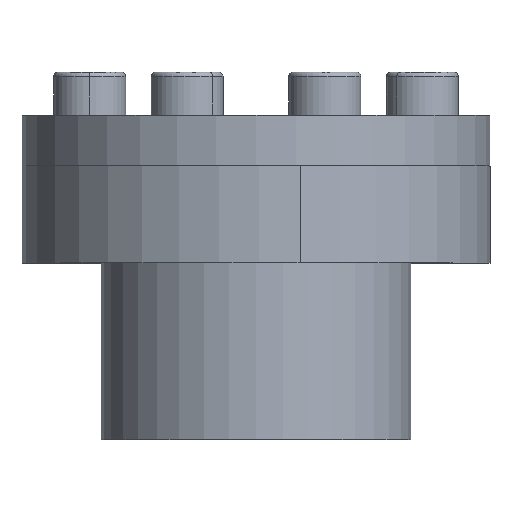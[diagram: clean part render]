
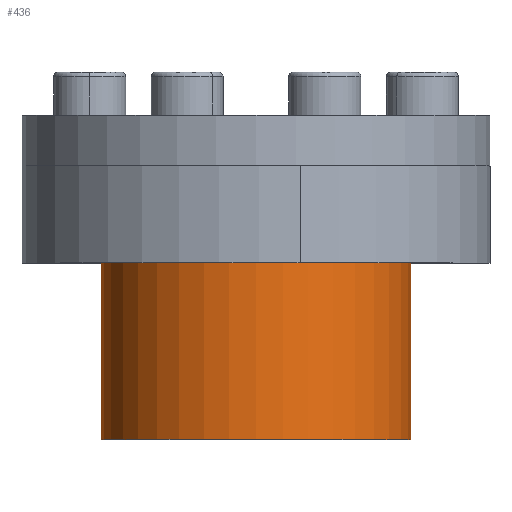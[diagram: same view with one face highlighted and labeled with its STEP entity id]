
A CAD part, top view. The second image highlights one B-rep face of the part: STEP entity #436.
In plain terms, the highlighted cylindrical face has radius 21.5 mm (diameter 43 mm), a partial arc.
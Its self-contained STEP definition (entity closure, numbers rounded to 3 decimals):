
#208 = ORIENTED_EDGE ( 'NONE', *, *, #913, .F. ) ;
#225 = ORIENTED_EDGE ( 'NONE', *, *, #2319, .F. ) ;
#291 = CARTESIAN_POINT ( 'NONE',  ( -0.8, 0., -21.485 ) ) ;
#409 = FACE_OUTER_BOUND ( 'NONE', #782, .T. ) ;
#422 = CARTESIAN_POINT ( 'NONE',  ( 0.8, 25., -21.485 ) ) ;
#436 = ADVANCED_FACE ( 'NONE', ( #409 ), #1183, .T. ) ;
#702 = DIRECTION ( 'NONE',  ( 0., -1., 0. ) ) ;
#751 = EDGE_CURVE ( 'NONE', #1554, #2414, #1536, .T. ) ;
#762 = ORIENTED_EDGE ( 'NONE', *, *, #2507, .F. ) ;
#766 = DIRECTION ( 'NONE',  ( 0., 0., -1. ) ) ;
#782 = EDGE_LOOP ( 'NONE', ( #208, #2804, #762, #225 ) ) ;
#788 = AXIS2_PLACEMENT_3D ( 'NONE', #3169, #916, #3140 ) ;
#913 = EDGE_CURVE ( 'NONE', #1554, #1516, #1466, .T. ) ;
#916 = DIRECTION ( 'NONE',  ( 0., -1., 0. ) ) ;
#1040 = VECTOR ( 'NONE', #1981, 1000. ) ;
#1183 = CYLINDRICAL_SURFACE ( 'NONE', #2411, 21.5 ) ;
#1360 = DIRECTION ( 'NONE',  ( 0., 0., -1. ) ) ;
#1380 = CARTESIAN_POINT ( 'NONE',  ( -0.8, 25., -21.485 ) ) ;
#1392 = CARTESIAN_POINT ( 'NONE',  ( 0., 0., 0. ) ) ;
#1410 = VERTEX_POINT ( 'NONE', #2838 ) ;
#1466 = LINE ( 'NONE', #3146, #3001 ) ;
#1516 = VERTEX_POINT ( 'NONE', #3150 ) ;
#1536 = CIRCLE ( 'NONE', #2210, 21.5 ) ;
#1554 = VERTEX_POINT ( 'NONE', #422 ) ;
#1981 = DIRECTION ( 'NONE',  ( 0., 1., 0. ) ) ;
#2108 = CARTESIAN_POINT ( 'NONE',  ( 0., 25., 0. ) ) ;
#2173 = CIRCLE ( 'NONE', #788, 21.5 ) ;
#2210 = AXIS2_PLACEMENT_3D ( 'NONE', #2108, #2358, #1360 ) ;
#2319 = EDGE_CURVE ( 'NONE', #1516, #1410, #2173, .T. ) ;
#2358 = DIRECTION ( 'NONE',  ( 0., -1., 0. ) ) ;
#2377 = DIRECTION ( 'NONE',  ( 0., -1., 0. ) ) ;
#2411 = AXIS2_PLACEMENT_3D ( 'NONE', #1392, #2377, #766 ) ;
#2414 = VERTEX_POINT ( 'NONE', #1380 ) ;
#2497 = LINE ( 'NONE', #291, #1040 ) ;
#2507 = EDGE_CURVE ( 'NONE', #1410, #2414, #2497, .T. ) ;
#2804 = ORIENTED_EDGE ( 'NONE', *, *, #751, .T. ) ;
#2838 = CARTESIAN_POINT ( 'NONE',  ( -0.8, 0., -21.485 ) ) ;
#3001 = VECTOR ( 'NONE', #702, 1000. ) ;
#3140 = DIRECTION ( 'NONE',  ( 0., 0., -1. ) ) ;
#3146 = CARTESIAN_POINT ( 'NONE',  ( 0.8, 0., -21.485 ) ) ;
#3150 = CARTESIAN_POINT ( 'NONE',  ( 0.8, 0., -21.485 ) ) ;
#3169 = CARTESIAN_POINT ( 'NONE',  ( 0., 0., 0. ) ) ;
